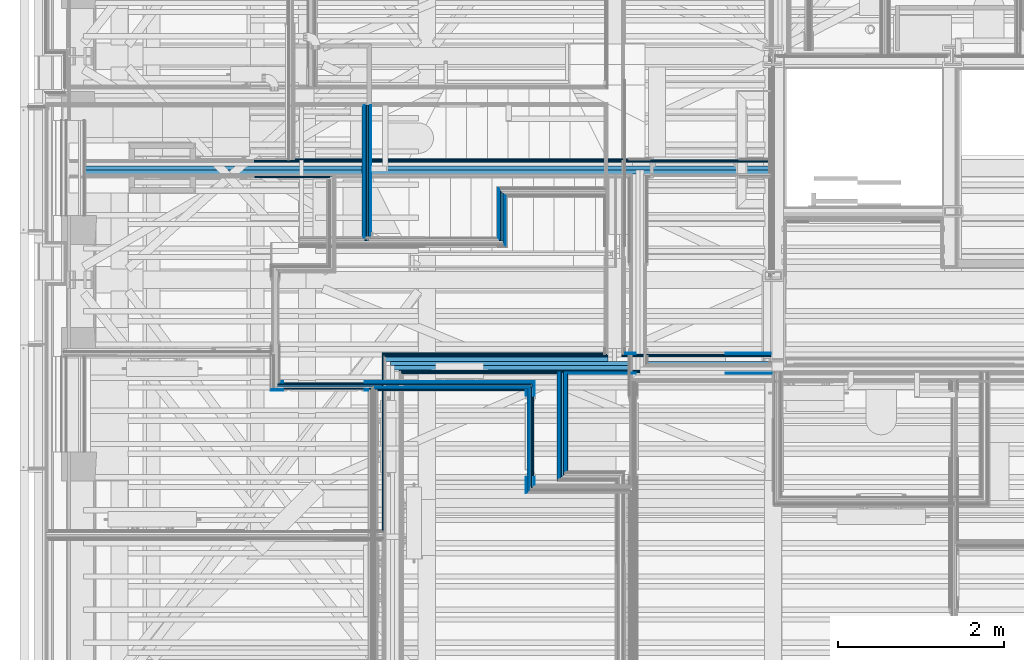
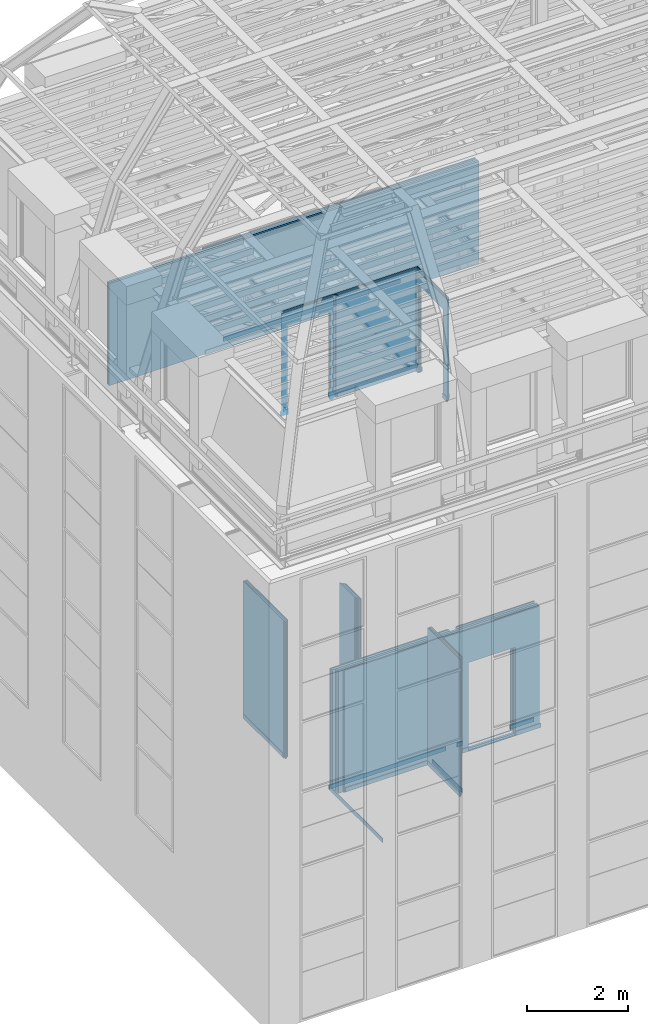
# One storey, part 31 of 183: 54 building element parts, 3 openings, 8 elements without a shape of their own.
"""IFC2X3 building model written with IfcOpenShell, lengths in metres."""

import ifcopenshell
import ifcopenshell.guid

model = None  # the IFC model being written
_history = None  # IfcOwnerHistory: only IFC2X3 demands one
_inside = {}  # id of a spatial element -> (the spatial element, [elements in it])
_under = {}  # id of a project, library or spatial element -> (it, [spatial elements below it])
_declared = {}  # id of a project -> (the project, [libraries it declares])
_typed = {}  # id of a type object -> (the type object, [elements of that type])
_made_of = {}  # id of a material, layer set ... -> (it, [elements and type objects made of it])


def new_model(schema):
    """Start an empty IFC model of exactly this schema.

    Asked for "IFC4X3", IfcOpenShell would pick the latest addendum, in which some entities
    have other attributes; the version numbers below select the first issue.
    IFC2X3 requires an IfcOwnerHistory on every rooted entity: one is made here for all.
    """
    global model, _history
    if schema == "IFC4X3":
        model = ifcopenshell.file(schema_version=(4, 3, 0, 0))
    else:
        model = ifcopenshell.file(schema=schema)
    _inside.clear()
    _under.clear()
    _declared.clear()
    _typed.clear()
    _made_of.clear()
    _history = None
    if model.schema == "IFC2X3":
        org = make("IfcOrganization", Name="unknown")
        user = make(
            "IfcPersonAndOrganization",
            ThePerson=make("IfcPerson", FamilyName="unknown"),
            TheOrganization=org,
        )
        app = make(
            "IfcApplication",
            ApplicationDeveloper=org,
            Version="unknown",
            ApplicationFullName="unknown",
            ApplicationIdentifier="unknown",
        )
        _history = make(
            "IfcOwnerHistory",
            OwningUser=user,
            OwningApplication=app,
            ChangeAction="ADDED",
            CreationDate=0,
        )
    return model


def make(cls, **values):
    """One entity of the class cls with the attributes given. An attribute that is None is left unset."""
    return model.create_entity(
        cls, **{name: value for name, value in values.items() if value is not None}
    )


def entity(cls, *values):
    """Any entity or typed value of the class cls, its attributes in the order of the schema. None: left unset."""
    e = model.create_entity(cls)
    for i, value in enumerate(values):
        if value is not None:
            e[i] = value
    return e


def rooted(cls, **values):
    """An entity with a GlobalId (a new one), such as an element, a storey or a relation."""
    return make(cls, GlobalId=ifcopenshell.guid.new(), OwnerHistory=_history, **values)


def si_unit(unit_type, name, prefix=None):
    """IfcSIUnit, for example si_unit("LENGTHUNIT", "METRE", prefix="MILLI")."""
    return make("IfcSIUnit", UnitType=unit_type, Prefix=prefix, Name=name)


def converted_unit(unit_type, name, factor, base, dimensions=None, offset=None):
    """IfcConversionBasedUnit, such as the inch: factor (a typed value) times the base unit."""
    return make(
        "IfcConversionBasedUnit"
        if offset is None
        else "IfcConversionBasedUnitWithOffset",
        ConversionOffset=offset,
        Dimensions=None
        if dimensions is None
        else entity("IfcDimensionalExponents", *dimensions),
        UnitType=unit_type,
        Name=name,
        ConversionFactor=make(
            "IfcMeasureWithUnit", ValueComponent=factor, UnitComponent=base
        ),
    )


def derived_unit(unit_type, elements):
    """IfcDerivedUnit: a product of units, each with its exponent."""
    return make(
        "IfcDerivedUnit",
        Elements=[
            make("IfcDerivedUnitElement", Unit=unit, Exponent=power)
            for unit, power in elements
        ],
        UnitType=unit_type,
    )


def money_unit(currency):
    """IfcMonetaryUnit."""
    return make("IfcMonetaryUnit", Currency=currency)


def assignment(units):
    """IfcUnitAssignment: the units of a project."""
    return None if units is None else make("IfcUnitAssignment", Units=units)


def point(xyz):
    """IfcCartesianPoint."""
    return None if xyz is None else make("IfcCartesianPoint", Coordinates=xyz)


def direction(xyz):
    """IfcDirection."""
    return None if xyz is None else make("IfcDirection", DirectionRatios=xyz)


def frame(location, z_axis=None, x_axis=None):
    """IfcAxis2Placement3D, a coordinate frame: its origin and axes. An axis left out is left unset."""
    return make(
        "IfcAxis2Placement3D",
        Location=point(location),
        Axis=direction(z_axis),
        RefDirection=direction(x_axis),
    )


def frame_2d(location, x_axis=None):
    """IfcAxis2Placement2D, a coordinate frame in the plane: its origin and x axis."""
    return make(
        "IfcAxis2Placement2D", Location=point(location), RefDirection=direction(x_axis)
    )


def origin_with_axes():
    """The frame at (0, 0, 0) with the z axis (0, 0, 1) and the x axis (1, 0, 0) written out."""
    return frame((0.0, 0.0, 0.0), z_axis=(0.0, 0.0, 1.0), x_axis=(1.0, 0.0, 0.0))


def place(relative_to, where):
    """IfcLocalPlacement: puts the frame where relative to a parent placement (None: the world)."""
    return make(
        "IfcLocalPlacement", PlacementRelTo=relative_to, RelativePlacement=where
    )


def context(
    kind, dimensions, precision=None, world=None, true_north=None, identifier=None
):
    """IfcGeometricRepresentationContext, for example the 3D "Model" context."""
    return make(
        "IfcGeometricRepresentationContext",
        ContextIdentifier=identifier,
        ContextType=kind,
        CoordinateSpaceDimension=dimensions,
        Precision=precision,
        WorldCoordinateSystem=world,
        TrueNorth=true_north,
    )


def subcontext(parent, identifier, kind, view, scale=None):
    """IfcGeometricRepresentationSubContext, for example "Body" below "Model"."""
    return make(
        "IfcGeometricRepresentationSubContext",
        ContextIdentifier=identifier,
        ContextType=kind,
        ParentContext=parent,
        TargetScale=scale,
        TargetView=view,
    )


def project(units=None, contexts=None):
    """IfcProject with its units and contexts."""
    return rooted(
        "IfcProject",
        Name="project",
        RepresentationContexts=contexts,
        UnitsInContext=assignment(units),
    )


def spatial(cls, under=None, at=None, **own):
    """A site, building, storey or space (cls), placed at a placement, below another one or the project."""
    s = rooted(cls, ObjectPlacement=at, **own)
    if under is not None:
        _under.setdefault(under.id(), (under, []))[1].append(s)
    return s


def polyline(points):
    """IfcPolyline through the points."""
    return make("IfcPolyline", Points=[point(p) for p in points])


def profile(cls, at=None, kind="AREA", **sizes):
    """A parametric profile (cls). Its sizes go by their IFC names, for example OverallWidth=200.0."""
    return make(cls, ProfileType=kind, Position=at, **sizes)


def rectangle(**sizes):
    """IfcRectangleProfileDef."""
    return profile("IfcRectangleProfileDef", **sizes)


def outline(outer, holes=None, kind="AREA"):
    """IfcArbitraryClosedProfileDef: a profile drawn as a closed curve; with holes, ...WithVoids."""
    if holes is None:
        return make("IfcArbitraryClosedProfileDef", ProfileType=kind, OuterCurve=outer)
    return make(
        "IfcArbitraryProfileDefWithVoids",
        ProfileType=kind,
        OuterCurve=outer,
        InnerCurves=holes,
    )


def extrude(swept, where, along, depth):
    """IfcExtrudedAreaSolid: the profile swept, set in the frame where, extruded along a direction by depth."""
    return make(
        "IfcExtrudedAreaSolid",
        SweptArea=swept,
        Position=where,
        ExtrudedDirection=direction(along),
        Depth=depth,
    )


def shape(context_of_items, identifier, shape_type, items):
    """IfcShapeRepresentation: the items that make up one representation, for example the "Body"."""
    return make(
        "IfcShapeRepresentation",
        ContextOfItems=context_of_items,
        RepresentationIdentifier=identifier,
        RepresentationType=shape_type,
        Items=items,
    )


def material(Name=None, Category=None):
    """IfcMaterial."""
    return make("IfcMaterial", Name=Name, Category=Category)


def made_of(thing, what):
    """Note that an element or type object is made of a material, layer set ...; save() writes the relation."""
    if what is not None:
        _made_of.setdefault(what.id(), (what, []))[1].append(thing)
    return thing


def type_object(cls, material=None, **own):
    """A type object (cls), such as IfcWallType, which elements share."""
    return made_of(rooted(cls, **own), material)


def element(
    cls,
    number,
    at=None,
    inside=None,
    cuts=None,
    type_object=None,
    material=None,
    context=None,
    identifier="Body",
    shape_type=None,
    held_by="IfcProductDefinitionShape",
    body=None,
    shapes=None,
    **own,
):
    """One element of the class cls, such as IfcWall. Its Tag is "e" and its number.

    at: its placement. inside: the storey or other place that contains it. cuts: it is an
    opening in that element (IfcRelVoidsElement). A single representation is given by context,
    identifier, shape_type and body (its items); several are given by shapes. held_by: the class
    of the entity that holds the representations. save() writes the other relations.
    """
    e = rooted(cls, Tag="e%d" % number, ObjectPlacement=at, **own)
    if body is not None:
        shapes = [shape(context, identifier, shape_type, body)]
    if shapes is not None:
        e.Representation = make(held_by, Representations=shapes)
    if inside is not None:
        _inside.setdefault(inside.id(), (inside, []))[1].append(e)
    if cuts is not None:
        rooted(
            "IfcRelVoidsElement", RelatingBuildingElement=cuts, RelatedOpeningElement=e
        )
    if type_object is not None:
        _typed.setdefault(type_object.id(), (type_object, []))[1].append(e)
    return made_of(e, material)


def aggregate(whole, parts):
    """IfcRelAggregates: a whole, such as a stair, and the parts it consists of."""
    return rooted("IfcRelAggregates", RelatingObject=whole, RelatedObjects=parts)


def save(model, path):
    """Write the relations noted so far, then the file.

    IfcRelAggregates (storeys below a building ...), IfcRelContainedInSpatialStructure (elements
    in a storey), IfcRelDefinesByType, IfcRelAssociatesMaterial and IfcRelDeclares: one each for
    every whole, place, type object, material and project.
    """
    for whole, parts in _under.values():
        aggregate(whole, parts)
    for where, things in _inside.values():
        rooted(
            "IfcRelContainedInSpatialStructure",
            RelatedElements=things,
            RelatingStructure=where,
        )
    for kind, things in _typed.values():
        rooted("IfcRelDefinesByType", RelatedObjects=things, RelatingType=kind)
    for what, things in _made_of.values():
        rooted("IfcRelAssociatesMaterial", RelatedObjects=things, RelatingMaterial=what)
    for by, libraries in _declared.values():
        rooted("IfcRelDeclares", RelatingContext=by, RelatedDefinitions=libraries)
    model.write(path)


model = new_model("IFC2X3")

# Units and contexts
model_context = context("Model", 3, precision=1e-05, world=origin_with_axes(), true_north=direction((0.0, 1.0)))
body_context = subcontext(model_context, "Body", "Model", "MODEL_VIEW", scale=1.0)
ifc_project = project(units=[si_unit("LENGTHUNIT", "METRE"), si_unit("AREAUNIT", "SQUARE_METRE"), si_unit("VOLUMEUNIT", "CUBIC_METRE"), si_unit("ABSORBEDDOSEUNIT", "GRAY"), si_unit("AMOUNTOFSUBSTANCEUNIT", "MOLE"), si_unit("DOSEEQUIVALENTUNIT", "SIEVERT"), si_unit("ELECTRICCAPACITANCEUNIT", "FARAD"), si_unit("ELECTRICCHARGEUNIT", "COULOMB"), si_unit("ELECTRICCONDUCTANCEUNIT", "SIEMENS"), si_unit("ELECTRICCURRENTUNIT", "AMPERE"), si_unit("ELECTRICRESISTANCEUNIT", "OHM"), si_unit("ELECTRICVOLTAGEUNIT", "VOLT"), si_unit("ENERGYUNIT", "JOULE"), si_unit("FORCEUNIT", "NEWTON"), si_unit("FREQUENCYUNIT", "HERTZ"), si_unit("ILLUMINANCEUNIT", "LUX"), si_unit("INDUCTANCEUNIT", "HENRY"), si_unit("LUMINOUSFLUXUNIT", "LUMEN"), si_unit("LUMINOUSINTENSITYUNIT", "CANDELA"), si_unit("MAGNETICFLUXDENSITYUNIT", "TESLA"), si_unit("MAGNETICFLUXUNIT", "WEBER"), si_unit("MASSUNIT", "GRAM"), converted_unit("PLANEANGLEUNIT", "degree", entity("IfcReal", 0.0174532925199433), si_unit("PLANEANGLEUNIT", "RADIAN"), dimensions=[0, 0, 0, 0, 0, 0, 0]), si_unit("POWERUNIT", "WATT"), si_unit("PRESSUREUNIT", "PASCAL"), si_unit("RADIOACTIVITYUNIT", "BECQUEREL"), si_unit("SOLIDANGLEUNIT", "STERADIAN"), si_unit("THERMODYNAMICTEMPERATUREUNIT", "KELVIN"), si_unit("TIMEUNIT", "SECOND"), derived_unit("ACCELERATIONUNIT", [(si_unit("LENGTHUNIT", "METRE"), 1), (si_unit("TIMEUNIT", "SECOND"), -2)]), derived_unit("ANGULARVELOCITYUNIT", [(converted_unit("PLANEANGLEUNIT", "degree", entity("IfcReal", 0.0174532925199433), si_unit("PLANEANGLEUNIT", "RADIAN"), dimensions=[0, 0, 0, 0, 0, 0, 0]), 1), (si_unit("TIMEUNIT", "SECOND"), -1)]), derived_unit("CURVATUREUNIT", [(converted_unit("PLANEANGLEUNIT", "degree", entity("IfcReal", 0.0174532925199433), si_unit("PLANEANGLEUNIT", "RADIAN"), dimensions=[0, 0, 0, 0, 0, 0, 0]), 1), (si_unit("LENGTHUNIT", "METRE"), -1)]), derived_unit("DYNAMICVISCOSITYUNIT", [(si_unit("PRESSUREUNIT", "PASCAL"), 1), (si_unit("TIMEUNIT", "SECOND"), 1)]), derived_unit("HEATFLUXDENSITYUNIT", [(si_unit("POWERUNIT", "WATT"), 1), (si_unit("LENGTHUNIT", "METRE"), -2)]), derived_unit("HEATINGVALUEUNIT", [(si_unit("ENERGYUNIT", "JOULE"), 1), (si_unit("MASSUNIT", "GRAM"), -1)]), derived_unit("INTEGERCOUNTRATEUNIT", [(si_unit("TIMEUNIT", "SECOND"), -1)]), derived_unit("IONCONCENTRATIONUNIT", [(si_unit("MASSUNIT", "GRAM"), 1), (si_unit("VOLUMEUNIT", "CUBIC_METRE"), -1)]), derived_unit("ISOTHERMALMOISTURECAPACITYUNIT", [(si_unit("VOLUMEUNIT", "CUBIC_METRE"), 1), (si_unit("MASSUNIT", "GRAM"), -1)]), derived_unit("KINEMATICVISCOSITYUNIT", [(si_unit("AREAUNIT", "SQUARE_METRE"), 1), (si_unit("TIMEUNIT", "SECOND"), -1)]), derived_unit("LINEARFORCEUNIT", [(si_unit("FORCEUNIT", "NEWTON"), 1), (si_unit("LENGTHUNIT", "METRE"), -1)]), derived_unit("LINEARMOMENTUNIT", [(si_unit("FORCEUNIT", "NEWTON"), 1), (si_unit("LENGTHUNIT", "METRE"), -1)]), derived_unit("LINEARSTIFFNESSUNIT", [(si_unit("FORCEUNIT", "NEWTON"), 1), (si_unit("LENGTHUNIT", "METRE"), -1)]), derived_unit("LINEARVELOCITYUNIT", [(si_unit("LENGTHUNIT", "METRE"), 1), (si_unit("TIMEUNIT", "SECOND"), -1)]), derived_unit("LUMINOUSINTENSITYDISTRIBUTIONUNIT", [(si_unit("LUMINOUSINTENSITYUNIT", "CANDELA"), 1), (si_unit("LUMINOUSFLUXUNIT", "LUMEN"), -1)]), derived_unit("MASSDENSITYUNIT", [(si_unit("MASSUNIT", "GRAM"), 1), (si_unit("VOLUMEUNIT", "CUBIC_METRE"), -1)]), derived_unit("MASSFLOWRATEUNIT", [(si_unit("MASSUNIT", "GRAM"), 1), (si_unit("TIMEUNIT", "SECOND"), -1)]), derived_unit("MASSPERLENGTHUNIT", [(si_unit("MASSUNIT", "GRAM"), 1), (si_unit("LENGTHUNIT", "METRE"), -1)]), derived_unit("MODULUSOFELASTICITYUNIT", [(si_unit("FORCEUNIT", "NEWTON"), 1), (si_unit("AREAUNIT", "SQUARE_METRE"), -1)]), derived_unit("MODULUSOFLINEARSUBGRADEREACTIONUNIT", [(si_unit("FORCEUNIT", "NEWTON"), 1), (si_unit("LENGTHUNIT", "METRE"), -2)]), derived_unit("MODULUSOFROTATIONALSUBGRADEREACTIONUNIT", [(si_unit("FORCEUNIT", "NEWTON"), 1), (si_unit("LENGTHUNIT", "METRE"), 1)]), derived_unit("MODULUSOFSUBGRADEREACTIONUNIT", [(si_unit("FORCEUNIT", "NEWTON"), 1), (si_unit("VOLUMEUNIT", "CUBIC_METRE"), -1)]), derived_unit("MOISTUREDIFFUSIVITYUNIT", [(si_unit("VOLUMEUNIT", "CUBIC_METRE"), 1), (si_unit("TIMEUNIT", "SECOND"), -1)]), derived_unit("MOLECULARWEIGHTUNIT", [(si_unit("MASSUNIT", "GRAM"), 1), (si_unit("AMOUNTOFSUBSTANCEUNIT", "MOLE"), -1)]), derived_unit("PLANARFORCEUNIT", [(si_unit("FORCEUNIT", "NEWTON"), 1), (si_unit("LENGTHUNIT", "METRE"), -2)]), derived_unit("ROTATIONALFREQUENCYUNIT", [(si_unit("TIMEUNIT", "SECOND"), -1)]), derived_unit("ROTATIONALMASSUNIT", [(si_unit("MASSUNIT", "GRAM"), 1), (si_unit("LENGTHUNIT", "METRE"), 2)]), derived_unit("ROTATIONALSTIFFNESSUNIT", [(si_unit("FORCEUNIT", "NEWTON"), 1), (si_unit("LENGTHUNIT", "METRE"), 1), (converted_unit("PLANEANGLEUNIT", "degree", entity("IfcReal", 0.0174532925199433), si_unit("PLANEANGLEUNIT", "RADIAN"), dimensions=[0, 0, 0, 0, 0, 0, 0]), -1)]), derived_unit("SECTIONAREAINTEGRALUNIT", [(si_unit("LENGTHUNIT", "METRE"), 5)]), derived_unit("SECTIONMODULUSUNIT", [(si_unit("LENGTHUNIT", "METRE"), 3)]), derived_unit("SHEARMODULUSUNIT", [(si_unit("FORCEUNIT", "NEWTON"), 1), (si_unit("AREAUNIT", "SQUARE_METRE"), -1)]), derived_unit("SOUNDPOWERUNIT", [(si_unit("ENERGYUNIT", "JOULE"), 1), (si_unit("TIMEUNIT", "SECOND"), -1)]), derived_unit("SPECIFICHEATCAPACITYUNIT", [(si_unit("FORCEUNIT", "NEWTON"), 1), (si_unit("MASSUNIT", "GRAM"), -1), (si_unit("THERMODYNAMICTEMPERATUREUNIT", "KELVIN"), -1)]), derived_unit("TEMPERATUREGRADIENTUNIT", [(si_unit("THERMODYNAMICTEMPERATUREUNIT", "KELVIN"), 1), (si_unit("LENGTHUNIT", "METRE"), -1)]), derived_unit("THERMALADMITTANCEUNIT", [(si_unit("POWERUNIT", "WATT"), 1), (si_unit("AREAUNIT", "SQUARE_METRE"), -1), (si_unit("THERMODYNAMICTEMPERATUREUNIT", "KELVIN"), -1)]), derived_unit("THERMALCONDUCTANCEUNIT", [(si_unit("POWERUNIT", "WATT"), 1), (si_unit("LENGTHUNIT", "METRE"), -1), (si_unit("THERMODYNAMICTEMPERATUREUNIT", "KELVIN"), -1)]), derived_unit("THERMALEXPANSIONCOEFFICIENTUNIT", [(si_unit("THERMODYNAMICTEMPERATUREUNIT", "KELVIN"), -1)]), derived_unit("THERMALRESISTANCEUNIT", [(si_unit("AREAUNIT", "SQUARE_METRE"), 1), (si_unit("POWERUNIT", "WATT"), -1)]), derived_unit("THERMALTRANSMITTANCEUNIT", [(si_unit("POWERUNIT", "WATT"), 1), (si_unit("AREAUNIT", "SQUARE_METRE"), -1), (si_unit("THERMODYNAMICTEMPERATUREUNIT", "KELVIN"), -1)]), derived_unit("TORQUEUNIT", [(si_unit("FORCEUNIT", "NEWTON"), 1), (si_unit("LENGTHUNIT", "METRE"), 1)]), derived_unit("VAPORPERMEABILITYUNIT", [(si_unit("MASSUNIT", "GRAM"), 1), (si_unit("TIMEUNIT", "SECOND"), -1)]), derived_unit("VOLUMETRICFLOWRATEUNIT", [(si_unit("VOLUMEUNIT", "CUBIC_METRE"), 1), (si_unit("TIMEUNIT", "SECOND"), -1)]), derived_unit("WARPINGCONSTANTUNIT", [(si_unit("LENGTHUNIT", "METRE"), 6)]), derived_unit("WARPINGMOMENTUNIT", [(si_unit("FORCEUNIT", "NEWTON"), 1), (si_unit("LENGTHUNIT", "METRE"), 2)]), money_unit("GBP")], contexts=[model_context])

# Site, building, storey
site_placement = place(None, origin_with_axes())
site = spatial("IfcSite", under=ifc_project, at=site_placement, Name="Site", CompositionType="ELEMENT")
building_placement = place(site_placement, origin_with_axes())
building = spatial("IfcBuilding", under=site, at=building_placement, Name="Building01", CompositionType="ELEMENT")
storey_placement = place(building_placement, frame((0.0, 0.0, 5.15), z_axis=(0.0, 0.0, 1.0), x_axis=(1.0, 0.0, 0.0)))
storey = spatial("IfcBuildingStorey", under=building, at=storey_placement, Name="1F", CompositionType="ELEMENT", Elevation=5.15)

# Wall, building element parts
wall_type_1 = type_object("IfcWallType", Name="SHE_A-Walls_Type05a_Partition_95mm_tall", PredefinedType="NOTDEFINED")
wall_1_placement = place(storey_placement, frame((4.20573, 6.571475, 0.0), z_axis=(0.0, 0.0, 1.0), x_axis=(0.0, 1.0, 0.0)))
wall_1 = element("IfcWall", 1, at=wall_1_placement, inside=storey, type_object=wall_type_1, Name="5A", ObjectType="SHE_A-Walls_Type05a_Partition_95mm_tall")
ifc_material_1 = material(Name="A_BSUK_WallInternal_Finishes_Plasterboard")
placement_1 = place(wall_1_placement, origin_with_axes())
building_element_part_1 = element("IfcBuildingElementPart", 2, at=placement_1, material=ifc_material_1, Name="2", context=body_context, shape_type="SweptSolid", body=[
    extrude(rectangle(XDim=1.604195, YDim=0.012, at=frame_2d((0.837097, -0.029), x_axis=(-1.0, 0.0))), origin_with_axes(), (0.0, 0.0, 1.0), 3.32),
])
ifc_material_2 = material(Name="Air Cavity")
building_element_part_2 = element("IfcBuildingElementPart", 3, at=placement_1, material=ifc_material_2, Name="3", context=body_context, shape_type="SweptSolid", body=[
    extrude(rectangle(XDim=1.604195, YDim=0.023, at=frame_2d((0.837097, -0.0115), x_axis=(-1.0, 0.0))), origin_with_axes(), (0.0, 0.0, 1.0), 3.32),
])
ifc_material_3 = material(Name="A_BSUK_Insulation")
building_element_part_3 = element("IfcBuildingElementPart", 4, at=placement_1, material=ifc_material_3, Name="4", context=body_context, shape_type="SweptSolid", body=[
    extrude(rectangle(XDim=1.639195, YDim=0.025, at=frame_2d((0.819597, 0.0125), x_axis=(-1.0, 0.0))), origin_with_axes(), (0.0, 0.0, 1.0), 3.32),
])
building_element_part_4 = element("IfcBuildingElementPart", 5, at=placement_1, material=ifc_material_2, Name="5", context=body_context, shape_type="SweptSolid", body=[
    extrude(rectangle(XDim=1.639195, YDim=0.023, at=frame_2d((0.819597, 0.0365), x_axis=(-1.0, 0.0))), origin_with_axes(), (0.0, 0.0, 1.0), 3.32),
])
building_element_part_5 = element("IfcBuildingElementPart", 6, at=placement_1, material=ifc_material_1, Name="6", context=body_context, shape_type="SweptSolid", body=[
    extrude(rectangle(XDim=1.604195, YDim=0.012, at=frame_2d((0.837097, 0.054), x_axis=(-1.0, 0.0))), origin_with_axes(), (0.0, 0.0, 1.0), 3.32),
])
ifc_material_4 = material(Name="A_BSUK_Walls_Timber")
building_element_part_6 = element("IfcBuildingElementPart", 7, at=placement_1, material=ifc_material_4, Name="7", context=body_context, shape_type="SweptSolid", body=[
    extrude(rectangle(XDim=1.574195, YDim=0.015, at=frame_2d((0.837097, 0.0675), x_axis=(-1.0, 0.0))), frame((0.0, 0.0, 0.015), z_axis=(0.0, 0.0, 1.0), x_axis=(1.0, 0.0, 0.0)), (0.0, 0.0, 1.0), 0.1),
])
aggregate(wall_1, [building_element_part_1, building_element_part_2, building_element_part_3, building_element_part_4, building_element_part_5, building_element_part_6])

# Wall, building element part
wall_type_2 = type_object("IfcWallType", Name="SHE_A-Walls_Type01c_Partywall_225mm_twin_tall", PredefinedType="NOTDEFINED")
wall_2_placement = place(storey_placement, frame((4.522, 0.306, 0.0), z_axis=(0.0, 0.0, 1.0), x_axis=(0.0, 1.0, 0.0)))
wall_2 = element("IfcWall", 8, at=wall_2_placement, inside=storey, type_object=wall_type_2, Name="1C", ObjectType="SHE_A-Walls_Type01c_Partywall_225mm_twin_tall")
building_element_part_7_placement = place(wall_2_placement, origin_with_axes())
building_element_part_7 = element("IfcBuildingElementPart", 9, at=building_element_part_7_placement, material=ifc_material_4, Name="10", context=body_context, shape_type="SweptSolid", body=[
    extrude(outline(polyline([(4.914, 0.152), (2.774286, 0.152), (2.774286, 0.137), (4.899, 0.137), (4.914, 0.152)])), frame((0.0, 0.0, 0.015), z_axis=(0.0, 0.0, 1.0), x_axis=(1.0, 0.0, 0.0)), (0.0, 0.0, 1.0), 0.1),
])
aggregate(wall_2, [building_element_part_7])

# Wall, opening, building element parts
wall_3_placement = place(storey_placement, frame((9.06, 5.117, 0.0), z_axis=(0.0, 0.0, 1.0), x_axis=(-1.0, 0.0, 0.0)))
wall_3 = element("IfcWall", 10, at=wall_3_placement, inside=storey, type_object=wall_type_2, Name="1C", ObjectType="SHE_A-Walls_Type01c_Partywall_225mm_twin_tall")
opening_1_placement = place(wall_3_placement, frame((0.5455, -0.103, 0.004), z_axis=(0.0, 0.0, 1.0), x_axis=(1.0, 0.0, 0.0)))
element("IfcOpeningElement", 11, at=opening_1_placement, cuts=wall_3, Name="Opening", ObjectType="Opening", context=body_context, shape_type="SweptSolid", body=[
    extrude(rectangle(XDim=2.142, YDim=1.084, at=frame_2d((-0.542, 1.071), x_axis=(0.0, -1.0))), frame((0.0, 0.0, 0.0), z_axis=(0.0, 1.0, 0.0), x_axis=(-1.0, 0.0, 0.0)), (0.0, 0.0, 1.0), 0.255),
])
placement_2 = place(wall_3_placement, origin_with_axes())
building_element_part_8 = element("IfcBuildingElementPart", 12, at=placement_2, material=ifc_material_4, Name="1", context=body_context, shape_type="SweptSolid", body=[
    extrude(rectangle(XDim=1.755331, YDim=0.015, at=frame_2d((0.877666, -0.0955), x_axis=(-1.0, 0.0))), frame((0.0, 0.0, 0.015), z_axis=(0.0, 0.0, 1.0), x_axis=(1.0, 0.0, 0.0)), (0.0, 0.0, 1.0), 0.1),
])
building_element_part_9 = element("IfcBuildingElementPart", 13, at=placement_2, material=ifc_material_4, Name="2", context=body_context, shape_type="SweptSolid", body=[
    extrude(outline(polyline([(4.675, -0.088), (2.010331, -0.088), (2.010331, -0.103), (4.69, -0.103), (4.675, -0.088)])), frame((0.0, 0.0, 0.015), z_axis=(0.0, 0.0, 1.0), x_axis=(1.0, 0.0, 0.0)), (0.0, 0.0, 1.0), 0.1),
])
building_element_part_10 = element("IfcBuildingElementPart", 14, at=placement_2, material=ifc_material_1, Name="3", context=body_context, shape_type="SweptSolid", body=[
    extrude(rectangle(XDim=1.785331, YDim=0.015, at=frame_2d((0.892666, -0.0805), x_axis=(-1.0, 0.0))), origin_with_axes(), (0.0, 0.0, 1.0), 2.95),
])
building_element_part_11 = element("IfcBuildingElementPart", 15, at=placement_2, material=ifc_material_1, Name="4", context=body_context, shape_type="SweptSolid", body=[
    extrude(rectangle(XDim=2.694669, YDim=0.015, at=frame_2d((3.327666, -0.0805), x_axis=(-1.0, 0.0))), origin_with_axes(), (0.0, 0.0, 1.0), 2.95),
])
building_element_part_12 = element("IfcBuildingElementPart", 16, at=placement_2, material=ifc_material_1, Name="5", context=body_context, shape_type="SweptSolid", body=[
    extrude(rectangle(XDim=1.800331, YDim=0.015, at=frame_2d((0.900166, -0.0655), x_axis=(-1.0, 0.0))), origin_with_axes(), (0.0, 0.0, 1.0), 2.95),
])
building_element_part_13 = element("IfcBuildingElementPart", 17, at=placement_2, material=ifc_material_1, Name="6", context=body_context, shape_type="SweptSolid", body=[
    extrude(rectangle(XDim=2.694669, YDim=0.015, at=frame_2d((3.312666, -0.0655), x_axis=(-1.0, 0.0))), origin_with_axes(), (0.0, 0.0, 1.0), 2.95),
])
building_element_part_14 = element("IfcBuildingElementPart", 18, at=placement_2, material=ifc_material_2, Name="7", context=body_context, shape_type="SweptSolid", body=[
    extrude(rectangle(XDim=2.694669, YDim=0.058, at=frame_2d((3.312666, -0.029), x_axis=(-1.0, 0.0))), origin_with_axes(), (0.0, 0.0, 1.0), 2.95),
])
building_element_part_15 = element("IfcBuildingElementPart", 19, at=placement_2, material=ifc_material_3, Name="8", context=body_context, shape_type="SweptSolid", body=[
    extrude(rectangle(XDim=4.588, YDim=0.05, at=frame_2d((2.294, 0.025), x_axis=(-1.0, 0.0))), origin_with_axes(), (0.0, 0.0, 1.0), 2.95),
])
building_element_part_16 = element("IfcBuildingElementPart", 20, at=placement_2, material=ifc_material_2, Name="9", context=body_context, shape_type="SweptSolid", body=[
    extrude(rectangle(XDim=4.588, YDim=0.057, at=frame_2d((2.294, 0.0785), x_axis=(-1.0, 0.0))), origin_with_axes(), (0.0, 0.0, 1.0), 2.95),
])
building_element_part_17 = element("IfcBuildingElementPart", 21, at=placement_2, material=ifc_material_1, Name="10", context=body_context, shape_type="SweptSolid", body=[
    extrude(rectangle(XDim=4.48, YDim=0.015, at=frame_2d((2.24, 0.1145), x_axis=(-1.0, 0.0))), origin_with_axes(), (0.0, 0.0, 1.0), 2.95),
])
building_element_part_18 = element("IfcBuildingElementPart", 22, at=placement_2, material=ifc_material_1, Name="11", context=body_context, shape_type="SweptSolid", body=[
    extrude(rectangle(XDim=4.465, YDim=0.015, at=frame_2d((2.2325, 0.1295), x_axis=(-1.0, 0.0))), origin_with_axes(), (0.0, 0.0, 1.0), 2.95),
])
building_element_part_19 = element("IfcBuildingElementPart", 23, at=placement_2, material=ifc_material_4, Name="12", context=body_context, shape_type="SweptSolid", body=[
    extrude(rectangle(XDim=2.487536, YDim=0.015, at=frame_2d((1.221232, 0.1445), x_axis=(-1.0, 0.0))), frame((0.0, 0.0, 0.015), z_axis=(0.0, 0.0, 1.0), x_axis=(1.0, 0.0, 0.0)), (0.0, 0.0, 1.0), 0.1),
])
building_element_part_20 = element("IfcBuildingElementPart", 24, at=placement_2, material=ifc_material_4, Name="13", context=body_context, shape_type="SweptSolid", body=[
    extrude(rectangle(XDim=1.89, YDim=0.015, at=frame_2d((3.505, 0.1445), x_axis=(-1.0, 0.0))), frame((0.0, 0.0, 0.015), z_axis=(0.0, 0.0, 1.0), x_axis=(1.0, 0.0, 0.0)), (0.0, 0.0, 1.0), 0.1),
])
aggregate(wall_3, [building_element_part_8, building_element_part_9, building_element_part_10, building_element_part_11, building_element_part_12, building_element_part_13, building_element_part_14, building_element_part_15, building_element_part_16, building_element_part_17, building_element_part_18, building_element_part_19, building_element_part_20])

# Wall, building element parts
wall_4_placement = place(storey_placement, frame((5.804669, 6.571475, 0.0), z_axis=(0.0, 0.0, 1.0), x_axis=(0.0, 1.0, 0.0)))
wall_4 = element("IfcWall", 25, at=wall_4_placement, inside=storey, type_object=wall_type_1, Name="5A", ObjectType="SHE_A-Walls_Type05a_Partition_95mm_tall")
placement_3 = place(wall_4_placement, origin_with_axes())
building_element_part_21 = element("IfcBuildingElementPart", 26, at=placement_3, material=ifc_material_1, Name="2", context=body_context, shape_type="SweptSolid", body=[
    extrude(outline(polyline([(0.552, -0.048), (-0.048, -0.048), (-0.06, -0.06), (0.54, -0.06), (0.552, -0.048)])), origin_with_axes(), (0.0, 0.0, 1.0), 3.32),
])
building_element_part_22 = element("IfcBuildingElementPart", 27, at=placement_3, material=ifc_material_2, Name="3", context=body_context, shape_type="SweptSolid", body=[
    extrude(outline(polyline([(0.575, -0.025), (-0.025, -0.025), (-0.048, -0.048), (0.552, -0.048), (0.575, -0.025)])), origin_with_axes(), (0.0, 0.0, 1.0), 3.32),
])
building_element_part_23 = element("IfcBuildingElementPart", 28, at=placement_3, material=ifc_material_3, Name="4", context=body_context, shape_type="SweptSolid", body=[
    extrude(outline(polyline([(0.6, 0.0), (0.0, 0.0), (0.0, -0.025), (0.575, -0.025), (0.6, 0.0)])), origin_with_axes(), (0.0, 0.0, 1.0), 3.32),
])
building_element_part_24 = element("IfcBuildingElementPart", 29, at=placement_3, material=ifc_material_2, Name="5", context=body_context, shape_type="SweptSolid", body=[
    extrude(outline(polyline([(0.623, 0.023), (0.0, 0.023), (0.0, 0.0), (0.6, 0.0), (0.623, 0.023)])), origin_with_axes(), (0.0, 0.0, 1.0), 3.32),
])
building_element_part_25 = element("IfcBuildingElementPart", 30, at=placement_3, material=ifc_material_1, Name="6", context=body_context, shape_type="SweptSolid", body=[
    extrude(outline(polyline([(0.635, 0.035), (0.035, 0.035), (0.023, 0.023), (0.623, 0.023), (0.635, 0.035)])), origin_with_axes(), (0.0, 0.0, 1.0), 3.32),
])
aggregate(wall_4, [building_element_part_21, building_element_part_22, building_element_part_23, building_element_part_24, building_element_part_25])

wall_5_placement = place(storey_placement, frame((6.535, 3.72, 0.0), z_axis=(0.0, 0.0, 1.0), x_axis=(0.0, 1.0, 0.0)))
wall_5 = element("IfcWall", 31, at=wall_5_placement, inside=storey, type_object=wall_type_1, Name="5A", ObjectType="SHE_A-Walls_Type05a_Partition_95mm_tall")
placement_4 = place(wall_5_placement, origin_with_axes())
building_element_part_26 = element("IfcBuildingElementPart", 32, at=placement_4, material=ifc_material_4, Name="1", context=body_context, shape_type="SweptSolid", body=[
    extrude(outline(polyline([(1.245, -0.06), (0.06, -0.06), (0.075, -0.075), (1.245, -0.075), (1.245, -0.06)])), frame((0.0, 0.0, 0.015), z_axis=(0.0, 0.0, 1.0), x_axis=(1.0, 0.0, 0.0)), (0.0, 0.0, 1.0), 0.1),
])
building_element_part_27 = element("IfcBuildingElementPart", 33, at=placement_4, material=ifc_material_1, Name="2", context=body_context, shape_type="SweptSolid", body=[
    extrude(outline(polyline([(1.26, -0.048), (0.048, -0.048), (0.06, -0.06), (1.26, -0.06), (1.26, -0.048)])), origin_with_axes(), (0.0, 0.0, 1.0), 3.32),
])
building_element_part_28 = element("IfcBuildingElementPart", 34, at=placement_4, material=ifc_material_2, Name="3", context=body_context, shape_type="SweptSolid", body=[
    extrude(outline(polyline([(1.26, -0.025), (0.025, -0.025), (0.048, -0.048), (1.26, -0.048), (1.26, -0.025)])), origin_with_axes(), (0.0, 0.0, 1.0), 3.32),
])
building_element_part_29 = element("IfcBuildingElementPart", 35, at=placement_4, material=ifc_material_3, Name="4", context=body_context, shape_type="SweptSolid", body=[
    extrude(outline(polyline([(1.26, 0.0), (0.0, 0.0), (0.025, -0.025), (1.26, -0.025), (1.26, 0.0)])), origin_with_axes(), (0.0, 0.0, 1.0), 3.32),
])
building_element_part_30 = element("IfcBuildingElementPart", 36, at=placement_4, material=ifc_material_2, Name="5", context=body_context, shape_type="SweptSolid", body=[
    extrude(outline(polyline([(1.26, 0.023), (-0.023, 0.023), (0.0, 0.0), (1.26, 0.0), (1.26, 0.023)])), origin_with_axes(), (0.0, 0.0, 1.0), 3.32),
])
building_element_part_31 = element("IfcBuildingElementPart", 37, at=placement_4, material=ifc_material_1, Name="6", context=body_context, shape_type="SweptSolid", body=[
    extrude(outline(polyline([(1.26, 0.035), (-0.035, 0.035), (-0.023, 0.023), (1.26, 0.023), (1.26, 0.035)])), origin_with_axes(), (0.0, 0.0, 1.0), 3.32),
])
building_element_part_32 = element("IfcBuildingElementPart", 38, at=placement_4, material=ifc_material_4, Name="7", context=body_context, shape_type="SweptSolid", body=[
    extrude(outline(polyline([(1.245, 0.05), (-0.05, 0.05), (-0.035, 0.035), (1.245, 0.035), (1.245, 0.05)])), frame((0.0, 0.0, 0.015), z_axis=(0.0, 0.0, 1.0), x_axis=(1.0, 0.0, 0.0)), (0.0, 0.0, 1.0), 0.1),
])
aggregate(wall_5, [building_element_part_26, building_element_part_27, building_element_part_28, building_element_part_29, building_element_part_30, building_element_part_31, building_element_part_32])

wall_type_3 = type_object("IfcWallType", Name="SHE_A-Walls_Type01d_Partywall_200mm_twin", PredefinedType="NOTDEFINED")
wall_6_placement = place(storey_placement, frame((9.06, 7.425061, 9.78), z_axis=(0.0, 0.0, 1.0), x_axis=(-1.0, 0.0, 0.0)))
wall_6 = element("IfcWall", 39, at=wall_6_placement, inside=storey, type_object=wall_type_3, Name="1D", ObjectType="SHE_A-Walls_Type01d_Partywall_200mm_twin")
placement_5 = place(wall_6_placement, origin_with_axes())
building_element_part_33 = element("IfcBuildingElementPart", 40, at=placement_5, material=ifc_material_4, Name="3", context=body_context, shape_type="SweptSolid", body=[
    extrude(rectangle(XDim=4.045, YDim=0.015, at=frame_2d((3.7225, -0.1325), x_axis=(-1.0, 0.0))), frame((0.0, 0.0, 0.015), z_axis=(0.0, 0.0, 1.0), x_axis=(1.0, 0.0, 0.0)), (0.0, 0.0, 1.0), 0.1),
])
building_element_part_34 = element("IfcBuildingElementPart", 41, at=placement_5, material=ifc_material_1, Name="4", context=body_context, shape_type="SweptSolid", body=[
    extrude(rectangle(XDim=6.234909, YDim=0.015, at=frame_2d((3.117454, -0.1175), x_axis=(-1.0, 0.0))), origin_with_axes(), (0.0, 0.0, 1.0), 2.468),
])
building_element_part_35 = element("IfcBuildingElementPart", 42, at=placement_5, material=ifc_material_1, Name="6", context=body_context, shape_type="SweptSolid", body=[
    extrude(rectangle(XDim=6.234909, YDim=0.015, at=frame_2d((3.117454, -0.1025), x_axis=(-1.0, 0.0))), origin_with_axes(), (0.0, 0.0, 1.0), 2.468),
])
building_element_part_36 = element("IfcBuildingElementPart", 43, at=placement_5, material=ifc_material_3, Name="9", context=body_context, shape_type="SweptSolid", body=[
    extrude(rectangle(XDim=8.460061, YDim=0.05, at=frame_2d((4.23003, -0.025), x_axis=(-1.0, 0.0))), origin_with_axes(), (0.0, 0.0, 1.0), 2.468),
])
building_element_part_37 = element("IfcBuildingElementPart", 44, at=placement_5, material=ifc_material_2, Name="10", context=body_context, shape_type="SweptSolid", body=[
    extrude(rectangle(XDim=8.460061, YDim=0.045, at=frame_2d((4.23003, 0.0225), x_axis=(-1.0, 0.0))), origin_with_axes(), (0.0, 0.0, 1.0), 2.468),
])
building_element_part_38 = element("IfcBuildingElementPart", 45, at=placement_5, material=ifc_material_4, Name="13", context=body_context, shape_type="SweptSolid", body=[
    extrude(rectangle(XDim=4.584909, YDim=0.015, at=frame_2d((3.992454, 0.0825), x_axis=(-1.0, 0.0))), frame((0.0, 0.0, 0.015), z_axis=(0.0, 0.0, 1.0), x_axis=(1.0, 0.0, 0.0)), (0.0, 0.0, 1.0), 0.1),
])
aggregate(wall_6, [building_element_part_33, building_element_part_34, building_element_part_35, building_element_part_36, building_element_part_37, building_element_part_38])

# Wall, opening, building element parts
wall_type_4 = type_object("IfcWallType", Name="SHE_A-Walls_Type05b_Partition_80mm", PredefinedType="NOTDEFINED")
wall_7_placement = place(storey_placement, frame((3.091976, 4.806939, 9.78), z_axis=(0.0, 0.0, 1.0), x_axis=(1.0, 0.0, 0.0)))
wall_7 = element("IfcWall", 46, at=wall_7_placement, inside=storey, type_object=wall_type_4, Name="5B", ObjectType="SHE_A-Walls_Type05b_Partition_80mm")
opening_2_placement = place(wall_7_placement, frame((0.086, 0.068, 0.0), z_axis=(0.0, 0.0, 1.0), x_axis=(1.0, 0.0, 0.0)))
element("IfcOpeningElement", 47, at=opening_2_placement, cuts=wall_7, Name="Opening", ObjectType="Opening", context=body_context, shape_type="SweptSolid", body=[
    extrude(rectangle(XDim=0.984, YDim=2.142, at=frame_2d((0.492, 1.071), x_axis=(-1.0, 0.0))), frame((0.0, 0.0, 0.0), z_axis=(0.0, -1.0, 0.0), x_axis=(1.0, 0.0, 0.0)), (0.0, 0.0, 1.0), 0.11),
])
placement_6 = place(wall_7_placement, origin_with_axes())
building_element_part_39 = element("IfcBuildingElementPart", 48, at=placement_6, material=ifc_material_4, Name="1", context=body_context, shape_type="SweptSolid", body=[
    extrude(outline(polyline([(1.113, -0.027), (-0.052, -0.027), (-0.067, -0.042), (1.113, -0.042), (1.113, -0.027)])), frame((0.0, 0.0, 0.015), z_axis=(0.0, 0.0, 1.0), x_axis=(1.0, 0.0, 0.0)), (0.0, 0.0, 1.0), 0.1),
])
building_element_part_40 = element("IfcBuildingElementPart", 49, at=placement_6, material=ifc_material_4, Name="2", context=body_context, shape_type="SweptSolid", body=[
    extrude(outline(polyline([(3.028122, -0.027), (1.223, -0.027), (1.223, -0.042), (3.013122, -0.042), (3.028122, -0.027)])), frame((0.0, 0.0, 0.015), z_axis=(0.0, 0.0, 1.0), x_axis=(1.0, 0.0, 0.0)), (0.0, 0.0, 1.0), 0.1),
])
building_element_part_41 = element("IfcBuildingElementPart", 50, at=placement_6, material=ifc_material_1, Name="3", context=body_context, shape_type="SweptSolid", body=[
    extrude(outline(polyline([(1.143, -0.012), (-0.037, -0.012), (-0.052, -0.027), (1.143, -0.027), (1.143, -0.012)])), origin_with_axes(), (0.0, 0.0, 1.0), 2.468),
])
building_element_part_42 = element("IfcBuildingElementPart", 51, at=placement_6, material=ifc_material_1, Name="4", context=body_context, shape_type="SweptSolid", body=[
    extrude(outline(polyline([(3.043122, -0.012), (1.193, -0.012), (1.193, -0.027), (3.028122, -0.027), (3.043122, -0.012)])), origin_with_axes(), (0.0, 0.0, 1.0), 2.468),
])
building_element_part_43 = element("IfcBuildingElementPart", 52, at=placement_6, material=ifc_material_2, Name="5", context=body_context, shape_type="SweptSolid", body=[
    extrude(outline(polyline([(3.055122, 0.0), (1.193, 0.0), (1.193, -0.012), (3.043122, -0.012), (3.055122, 0.0)])), origin_with_axes(), (0.0, 0.0, 1.0), 2.468),
])
building_element_part_44 = element("IfcBuildingElementPart", 53, at=placement_6, material=ifc_material_3, Name="6", context=body_context, shape_type="SweptSolid", body=[
    extrude(rectangle(XDim=3.080122, YDim=0.025, at=frame_2d((1.540061, 0.0125), x_axis=(-1.0, 0.0))), origin_with_axes(), (0.0, 0.0, 1.0), 2.468),
])
building_element_part_45 = element("IfcBuildingElementPart", 54, at=placement_6, material=ifc_material_2, Name="7", context=body_context, shape_type="SweptSolid", body=[
    extrude(rectangle(XDim=3.080122, YDim=0.013, at=frame_2d((1.540061, 0.0315), x_axis=(-1.0, 0.0))), origin_with_axes(), (0.0, 0.0, 1.0), 2.468),
])
building_element_part_46 = element("IfcBuildingElementPart", 55, at=placement_6, material=ifc_material_1, Name="8", context=body_context, shape_type="SweptSolid", body=[
    extrude(outline(polyline([(3.108122, 0.053), (0.028, 0.053), (0.013, 0.038), (3.093122, 0.038), (3.108122, 0.053)])), origin_with_axes(), (0.0, 0.0, 1.0), 2.468),
])
building_element_part_47 = element("IfcBuildingElementPart", 56, at=placement_6, material=ifc_material_4, Name="9", context=body_context, shape_type="SweptSolid", body=[
    extrude(outline(polyline([(3.123122, 0.068), (0.043, 0.068), (0.028, 0.053), (3.108122, 0.053), (3.123122, 0.068)])), frame((0.0, 0.0, 0.015), z_axis=(0.0, 0.0, 1.0), x_axis=(1.0, 0.0, 0.0)), (0.0, 0.0, 1.0), 0.1),
])
aggregate(wall_7, [building_element_part_39, building_element_part_40, building_element_part_41, building_element_part_42, building_element_part_43, building_element_part_44, building_element_part_45, building_element_part_46, building_element_part_47])

wall_8_placement = place(storey_placement, frame((6.147098, 4.806939, 9.78), z_axis=(0.0, 0.0, 1.0), x_axis=(0.0, -1.0, 0.0)))
wall_8 = element("IfcWall", 57, at=wall_8_placement, inside=storey, type_object=wall_type_4, Name="5B", ObjectType="SHE_A-Walls_Type05b_Partition_80mm")
opening_3_placement = place(wall_8_placement, frame((0.105, -0.042, 0.0), z_axis=(0.0, 0.0, 1.0), x_axis=(1.0, 0.0, 0.0)))
element("IfcOpeningElement", 58, at=opening_3_placement, cuts=wall_8, Name="Opening", ObjectType="Opening", context=body_context, shape_type="SweptSolid", body=[
    extrude(rectangle(XDim=2.142, YDim=0.984, at=frame_2d((-0.492, 1.071), x_axis=(0.0, 1.0))), frame((0.0, 0.0, 0.0), z_axis=(0.0, 1.0, 0.0), x_axis=(-1.0, 0.0, 0.0)), (0.0, 0.0, 1.0), 0.11),
])
placement_7 = place(wall_8_placement, origin_with_axes())
building_element_part_48 = element("IfcBuildingElementPart", 59, at=placement_7, material=ifc_material_4, Name="1", context=body_context, shape_type="SweptSolid", body=[
    extrude(outline(polyline([(1.267, -0.027), (0.027, -0.027), (0.042, -0.042), (1.282, -0.042), (1.267, -0.027)])), frame((0.0, 0.0, 0.015), z_axis=(0.0, 0.0, 1.0), x_axis=(1.0, 0.0, 0.0)), (0.0, 0.0, 1.0), 0.1),
])
building_element_part_49 = element("IfcBuildingElementPart", 60, at=placement_7, material=ifc_material_1, Name="2", context=body_context, shape_type="SweptSolid", body=[
    extrude(outline(polyline([(1.252, -0.012), (0.012, -0.012), (0.027, -0.027), (1.267, -0.027), (1.252, -0.012)])), origin_with_axes(), (0.0, 0.0, 1.0), 2.468),
])
building_element_part_50 = element("IfcBuildingElementPart", 61, at=placement_7, material=ifc_material_2, Name="3", context=body_context, shape_type="SweptSolid", body=[
    extrude(outline(polyline([(1.24, 0.0), (0.0, 0.0), (0.012, -0.012), (1.252, -0.012), (1.24, 0.0)])), origin_with_axes(), (0.0, 0.0, 1.0), 2.468),
])
building_element_part_51 = element("IfcBuildingElementPart", 62, at=placement_7, material=ifc_material_3, Name="4", context=body_context, shape_type="SweptSolid", body=[
    extrude(rectangle(XDim=1.215, YDim=0.025, at=frame_2d((0.6075, 0.0125), x_axis=(-1.0, 0.0))), origin_with_axes(), (0.0, 0.0, 1.0), 2.468),
])
building_element_part_52 = element("IfcBuildingElementPart", 63, at=placement_7, material=ifc_material_2, Name="5", context=body_context, shape_type="SweptSolid", body=[
    extrude(rectangle(XDim=1.215, YDim=0.013, at=frame_2d((0.6075, 0.0315), x_axis=(-1.0, 0.0))), origin_with_axes(), (0.0, 0.0, 1.0), 2.468),
])
building_element_part_53 = element("IfcBuildingElementPart", 64, at=placement_7, material=ifc_material_1, Name="6", context=body_context, shape_type="SweptSolid", body=[
    extrude(outline(polyline([(1.187, 0.053), (-0.053, 0.053), (-0.038, 0.038), (1.202, 0.038), (1.187, 0.053)])), origin_with_axes(), (0.0, 0.0, 1.0), 2.468),
])
building_element_part_54 = element("IfcBuildingElementPart", 65, at=placement_7, material=ifc_material_4, Name="7", context=body_context, shape_type="SweptSolid", body=[
    extrude(outline(polyline([(1.172, 0.068), (-0.068, 0.068), (-0.053, 0.053), (1.187, 0.053), (1.172, 0.068)])), frame((0.0, 0.0, 0.015), z_axis=(0.0, 0.0, 1.0), x_axis=(1.0, 0.0, 0.0)), (0.0, 0.0, 1.0), 0.1),
])
aggregate(wall_8, [building_element_part_48, building_element_part_49, building_element_part_50, building_element_part_51, building_element_part_52, building_element_part_53, building_element_part_54])

save(model, "model.ifc")
